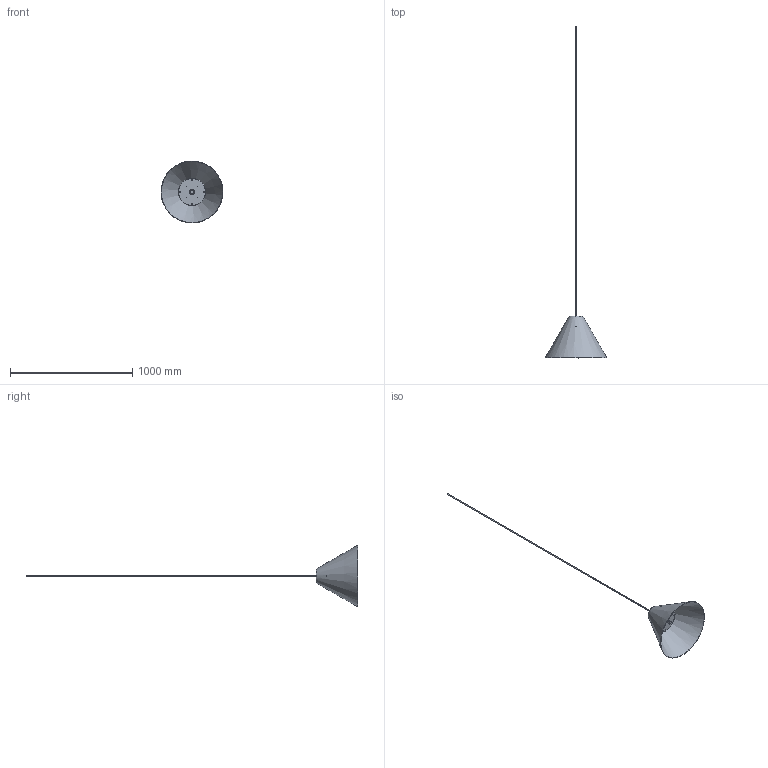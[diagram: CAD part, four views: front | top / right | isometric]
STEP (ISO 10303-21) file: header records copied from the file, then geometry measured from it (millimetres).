
FILE_DESCRIPTION(/* description */ (''),/* implementation_level */ '2;1');
FILE_NAME(/* name */ 'SOTTOSOPRA 2.stp',/* time_stamp */ '2024-05-16T12:02:38+02:00',/* author */ ('n.bisotti'),/* organization */ (''),/* preprocessor_version */ 'ST-DEVELOPER v19.2',/* originating_system */ 'Autodesk Inventor 2023',/* authorisation */ '');
FILE_SCHEMA (('AUTOMOTIVE_DESIGN { 1 0 10303 214 3 1 1 }'));
Length unit declared in the file: millimetre
Products named in the file (1): Parte1
Bounding box: 504.95 x 2712 x 504.95 mm (x, y, z)
Volume: 1265555.4 mm3; surface area: 1062084.7 mm2
Topology: 18 solids, 18 shells, 230 faces, 550 edges, 364 vertices
Faces by surface type: plane 112, cylinder 99, cone 15, torus 4
Full cylindrical faces by diameter (mm): 2.459 x2, 3 x4, 3.2 x2, 3.25 x4, 4.2 x1, 5 x1, 5.5 x2, 6.25 x1, 6.4 x1, 7 x2, 8 x1, 8.25 x3, 11.1 x2, 18 x1, 23 x1, 24.5 x1, 27 x1, 40 x1, 45 x1, 75 x1, 223 x1, 226 x1
Entity records: 7102 total; most frequent: DIRECTION 1238, CARTESIAN_POINT 1142, ORIENTED_EDGE 1094, EDGE_CURVE 547, AXIS2_PLACEMENT_3D 460, VERTEX_POINT 364, LINE 318, VECTOR 318
